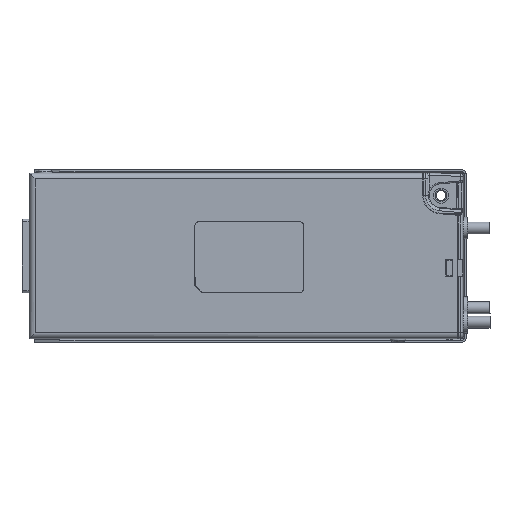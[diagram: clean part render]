
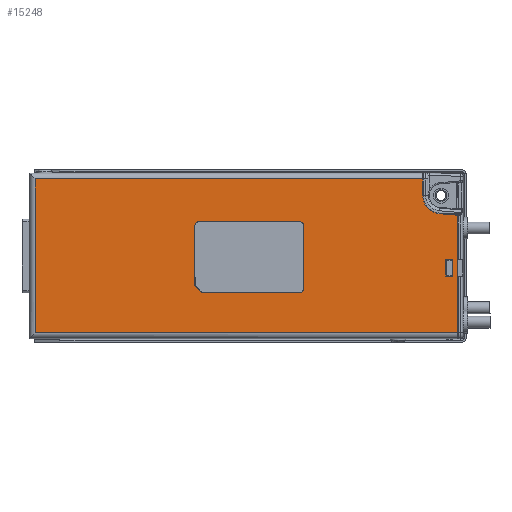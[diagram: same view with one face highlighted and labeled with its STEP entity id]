
A CAD part, top view. The second image highlights one B-rep face of the part: STEP entity #15248.
In plain terms, the highlighted planar face has unit normal (0, 0, 1).
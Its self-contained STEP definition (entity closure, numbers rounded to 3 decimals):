
#865=LINE('',#22169,#2209);
#868=LINE('',#22176,#2212);
#876=LINE('',#22214,#2220);
#877=LINE('',#22216,#2221);
#878=LINE('',#22217,#2222);
#879=LINE('',#22219,#2223);
#880=LINE('',#22220,#2224);
#881=LINE('',#22223,#2225);
#882=LINE('',#22225,#2226);
#883=LINE('',#22227,#2227);
#884=LINE('',#22228,#2228);
#885=LINE('',#22231,#2229);
#886=LINE('',#22235,#2230);
#887=LINE('',#22239,#2231);
#888=LINE('',#22243,#2232);
#889=LINE('',#22245,#2233);
#890=LINE('',#22247,#2234);
#891=LINE('',#22248,#2235);
#2209=VECTOR('',#17747,10.);
#2212=VECTOR('',#17754,10.);
#2220=VECTOR('',#17778,10.);
#2221=VECTOR('',#17779,10.);
#2222=VECTOR('',#17780,10.);
#2223=VECTOR('',#17781,10.);
#2224=VECTOR('',#17782,10.);
#2225=VECTOR('',#17783,10.);
#2226=VECTOR('',#17784,10.);
#2227=VECTOR('',#17785,10.);
#2228=VECTOR('',#17786,10.);
#2229=VECTOR('',#17787,10.);
#2230=VECTOR('',#17790,10.);
#2231=VECTOR('',#17793,10.);
#2232=VECTOR('',#17796,10.);
#2233=VECTOR('',#17797,10.);
#2234=VECTOR('',#17798,10.);
#2235=VECTOR('',#17799,10.);
#3540=FACE_BOUND('',#4508,.T.);
#3541=FACE_BOUND('',#4509,.T.);
#3633=FACE_OUTER_BOUND('',#4507,.T.);
#4507=EDGE_LOOP('',(#9593,#9594,#9595,#9596,#9597,#9598,#9599,#9600));
#4508=EDGE_LOOP('',(#9601,#9602,#9603,#9604));
#4509=EDGE_LOOP('',(#9605,#9606,#9607,#9608,#9609,#9610,#9611,#9612,#9613,
#9614));
#5445=CIRCLE('',#16156,7.7);
#5449=CIRCLE('',#16162,2.);
#5450=CIRCLE('',#16163,2.);
#5451=CIRCLE('',#16164,2.);
#5961=VERTEX_POINT('',#22166);
#5962=VERTEX_POINT('',#22168);
#5964=VERTEX_POINT('',#22174);
#5970=VERTEX_POINT('',#22198);
#5975=VERTEX_POINT('',#22212);
#5976=VERTEX_POINT('',#22213);
#5977=VERTEX_POINT('',#22215);
#5978=VERTEX_POINT('',#22218);
#5979=VERTEX_POINT('',#22221);
#5980=VERTEX_POINT('',#22222);
#5981=VERTEX_POINT('',#22224);
#5982=VERTEX_POINT('',#22226);
#5983=VERTEX_POINT('',#22229);
#5984=VERTEX_POINT('',#22230);
#5985=VERTEX_POINT('',#22232);
#5986=VERTEX_POINT('',#22234);
#5987=VERTEX_POINT('',#22236);
#5988=VERTEX_POINT('',#22238);
#5989=VERTEX_POINT('',#22240);
#5990=VERTEX_POINT('',#22242);
#5991=VERTEX_POINT('',#22244);
#5992=VERTEX_POINT('',#22246);
#7345=EDGE_CURVE('',#5961,#5962,#865,.T.);
#7349=EDGE_CURVE('',#5961,#5964,#868,.T.);
#7356=EDGE_CURVE('',#5964,#5970,#5445,.T.);
#7362=EDGE_CURVE('',#5975,#5976,#876,.T.);
#7363=EDGE_CURVE('',#5976,#5977,#877,.T.);
#7364=EDGE_CURVE('',#5962,#5977,#878,.T.);
#7365=EDGE_CURVE('',#5970,#5978,#879,.T.);
#7366=EDGE_CURVE('',#5978,#5975,#880,.T.);
#7367=EDGE_CURVE('',#5979,#5980,#881,.T.);
#7368=EDGE_CURVE('',#5980,#5981,#882,.T.);
#7369=EDGE_CURVE('',#5981,#5982,#883,.T.);
#7370=EDGE_CURVE('',#5982,#5979,#884,.T.);
#7371=EDGE_CURVE('',#5983,#5984,#885,.T.);
#7372=EDGE_CURVE('',#5985,#5983,#5449,.T.);
#7373=EDGE_CURVE('',#5986,#5985,#886,.T.);
#7374=EDGE_CURVE('',#5987,#5986,#5450,.T.);
#7375=EDGE_CURVE('',#5988,#5987,#887,.T.);
#7376=EDGE_CURVE('',#5989,#5988,#5451,.T.);
#7377=EDGE_CURVE('',#5990,#5989,#888,.T.);
#7378=EDGE_CURVE('',#5991,#5990,#889,.T.);
#7379=EDGE_CURVE('',#5992,#5991,#890,.T.);
#7380=EDGE_CURVE('',#5984,#5992,#891,.T.);
#9593=ORIENTED_EDGE('',*,*,#7362,.T.);
#9594=ORIENTED_EDGE('',*,*,#7363,.T.);
#9595=ORIENTED_EDGE('',*,*,#7364,.F.);
#9596=ORIENTED_EDGE('',*,*,#7345,.F.);
#9597=ORIENTED_EDGE('',*,*,#7349,.T.);
#9598=ORIENTED_EDGE('',*,*,#7356,.T.);
#9599=ORIENTED_EDGE('',*,*,#7365,.T.);
#9600=ORIENTED_EDGE('',*,*,#7366,.T.);
#9601=ORIENTED_EDGE('',*,*,#7367,.T.);
#9602=ORIENTED_EDGE('',*,*,#7368,.T.);
#9603=ORIENTED_EDGE('',*,*,#7369,.T.);
#9604=ORIENTED_EDGE('',*,*,#7370,.T.);
#9605=ORIENTED_EDGE('',*,*,#7371,.F.);
#9606=ORIENTED_EDGE('',*,*,#7372,.F.);
#9607=ORIENTED_EDGE('',*,*,#7373,.F.);
#9608=ORIENTED_EDGE('',*,*,#7374,.F.);
#9609=ORIENTED_EDGE('',*,*,#7375,.F.);
#9610=ORIENTED_EDGE('',*,*,#7376,.F.);
#9611=ORIENTED_EDGE('',*,*,#7377,.F.);
#9612=ORIENTED_EDGE('',*,*,#7378,.F.);
#9613=ORIENTED_EDGE('',*,*,#7379,.F.);
#9614=ORIENTED_EDGE('',*,*,#7380,.F.);
#13938=PLANE('',#16161);
#15248=ADVANCED_FACE('',(#3633,#3540,#3541),#13938,.T.);
#16156=AXIS2_PLACEMENT_3D('',#22200,#17764,#17765);
#16161=AXIS2_PLACEMENT_3D('',#22211,#17776,#17777);
#16162=AXIS2_PLACEMENT_3D('',#22233,#17788,#17789);
#16163=AXIS2_PLACEMENT_3D('',#22237,#17791,#17792);
#16164=AXIS2_PLACEMENT_3D('',#22241,#17794,#17795);
#17747=DIRECTION('',(0.676,-0.737,0.));
#17754=DIRECTION('',(-0.996,0.087,0.));
#17764=DIRECTION('center_axis',(0.,0.,
-1.));
#17765=DIRECTION('ref_axis',(-1.,0.,0.));
#17776=DIRECTION('center_axis',(0.,0.,
1.));
#17777=DIRECTION('ref_axis',(0.,-1.,0.));
#17778=DIRECTION('',(0.,-1.,0.));
#17779=DIRECTION('',(1.,0.,0.));
#17780=DIRECTION('',(0.,-1.,0.));
#17781=DIRECTION('',(0.,1.,0.));
#17782=DIRECTION('',(-1.,0.,0.));
#17783=DIRECTION('',(-1.,0.,0.));
#17784=DIRECTION('',(0.,1.,0.));
#17785=DIRECTION('',(1.,0.,0.));
#17786=DIRECTION('',(0.,-1.,0.));
#17787=DIRECTION('',(0.,-1.,0.));
#17788=DIRECTION('center_axis',(0.,0.,
1.));
#17789=DIRECTION('ref_axis',(-0.707,0.707,0.));
#17790=DIRECTION('',(-1.,0.,0.));
#17791=DIRECTION('center_axis',(0.,0.,
1.));
#17792=DIRECTION('ref_axis',(0.707,0.707,0.));
#17793=DIRECTION('',(0.,1.,0.));
#17794=DIRECTION('center_axis',(0.,0.,
1.));
#17795=DIRECTION('ref_axis',(0.707,-0.707,0.));
#17796=DIRECTION('',(1.,0.,0.));
#17797=DIRECTION('',(0.707,-0.707,0.));
#17798=DIRECTION('',(0.707,-0.707,0.));
#17799=DIRECTION('',(0.,-1.,0.));
#22166=CARTESIAN_POINT('',(90.502,17.202,34.9));
#22168=CARTESIAN_POINT('',(91.,16.658,34.9));
#22169=CARTESIAN_POINT('',(74.371,34.805,34.9));
#22174=CARTESIAN_POINT('',(83.329,17.829,34.9));
#22176=CARTESIAN_POINT('',(46.839,21.022,34.9));
#22198=CARTESIAN_POINT('',(76.3,25.5,34.9));
#22200=CARTESIAN_POINT('Origin',(84.,25.5,34.9));
#22211=CARTESIAN_POINT('Origin',(0.5,0.,
34.9));
#22212=CARTESIAN_POINT('',(-87.5,32.5,34.9));
#22213=CARTESIAN_POINT('',(-87.5,-32.5,34.9));
#22214=CARTESIAN_POINT('',(-87.5,-16.25,34.9));
#22215=CARTESIAN_POINT('',(91.,-32.5,34.9));
#22216=CARTESIAN_POINT('',(-44.75,-32.5,34.9));
#22217=CARTESIAN_POINT('',(91.,35.,34.9));
#22218=CARTESIAN_POINT('',(76.3,32.5,34.9));
#22219=CARTESIAN_POINT('',(76.3,12.75,34.9));
#22220=CARTESIAN_POINT('',(45.75,32.5,34.9));
#22221=CARTESIAN_POINT('',(89.,-8.5,34.9));
#22222=CARTESIAN_POINT('',(86.,-8.5,34.9));
#22223=CARTESIAN_POINT('',(44.75,-8.5,34.9));
#22224=CARTESIAN_POINT('',(86.,-1.5,34.9));
#22225=CARTESIAN_POINT('',(86.,-4.25,34.9));
#22226=CARTESIAN_POINT('',(89.,-1.5,34.9));
#22227=CARTESIAN_POINT('',(43.25,-1.5,34.9));
#22228=CARTESIAN_POINT('',(89.,-0.75,34.9));
#22229=CARTESIAN_POINT('',(-20.,12.475,34.9));
#22230=CARTESIAN_POINT('',(-20.,-9.025,34.9));
#22231=CARTESIAN_POINT('',(-20.,14.475,34.9));
#22232=CARTESIAN_POINT('',(-18.,14.475,34.9));
#22233=CARTESIAN_POINT('Origin',(-18.,12.475,34.9));
#22234=CARTESIAN_POINT('',(24.,14.475,34.9));
#22235=CARTESIAN_POINT('',(26.,14.475,34.9));
#22236=CARTESIAN_POINT('',(26.,12.475,34.9));
#22237=CARTESIAN_POINT('Origin',(24.,12.475,34.9));
#22238=CARTESIAN_POINT('',(26.,-13.525,34.9));
#22239=CARTESIAN_POINT('',(26.,-15.525,34.9));
#22240=CARTESIAN_POINT('',(24.,-15.525,34.9));
#22241=CARTESIAN_POINT('Origin',(24.,-13.525,34.9));
#22242=CARTESIAN_POINT('',(-17.,-15.525,34.9));
#22243=CARTESIAN_POINT('',(-20.,-15.525,34.9));
#22244=CARTESIAN_POINT('',(-17.525,-15.,34.9));
#22245=CARTESIAN_POINT('',(-16.5,-16.025,34.9));
#22246=CARTESIAN_POINT('',(-20.,-12.525,34.9));
#22247=CARTESIAN_POINT('',(-16.5,-16.025,34.9));
#22248=CARTESIAN_POINT('',(-20.,14.475,34.9));
